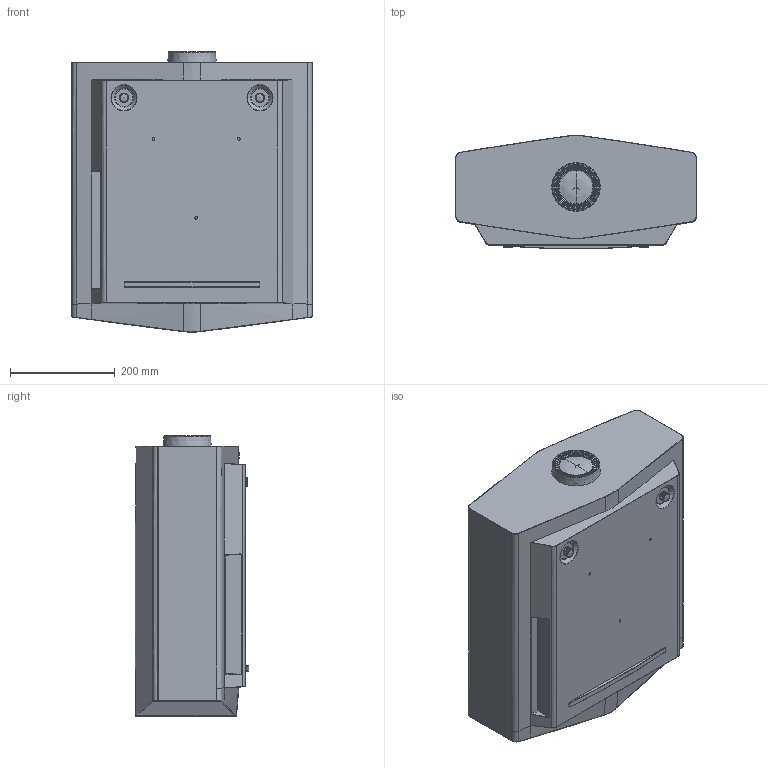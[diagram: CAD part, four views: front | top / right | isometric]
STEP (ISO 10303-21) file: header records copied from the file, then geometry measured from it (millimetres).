
FILE_DESCRIPTION(/* description */ (''),/* implementation_level */ '2;1');
FILE_NAME(/* name */ 'simple_condor.stp',/* time_stamp */ '2022-03-29T16:08:14+09:00',/* author */ (''),/* organization */ (''),/* preprocessor_version */ 'ST-DEVELOPER v18.1',/* originating_system */ 'SIEMENS PLM Software NX 1973',/* authorisation */ '');
FILE_SCHEMA (('AP203_CONFIGURATION_CONTROLLED_3D_DESIGN_OF_MECHANICAL_PARTS_AND_ASSEMBLIES_MIM_LF { 1 0 10303 403 2 1 2}'));
Products named in the file (1): simple_condor
Bounding box: 460 x 216.49 x 536.17 mm (x, y, z)
Volume: 42148779.4 mm3; surface area: 799881.3 mm2
Topology: 1 solids, 2 shells, 1276 faces, 3674 edges, 2184 vertices
Faces by surface type: bspline 452, cylinder 276, plane 193, cone 153, sphere 122, torus 74, extrusion 6
Full cylindrical faces by diameter (mm): 5 x5, 7.5 x2, 11 x2, 15 x2, 15.5 x2, 64.4 x1, 70.373 x1
Entity records: 68740 total; most frequent: CARTESIAN_POINT 32670, ORIENTED_EDGE 6710, DIRECTION 4296, EDGE_CURVE 3355, VERTEX_POINT 2157, AXIS2_PLACEMENT_3D 1783, B_SPLINE_CURVE_WITH_KNOTS 1608, EDGE_LOOP 1348
